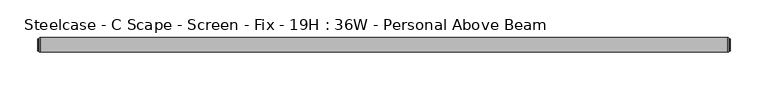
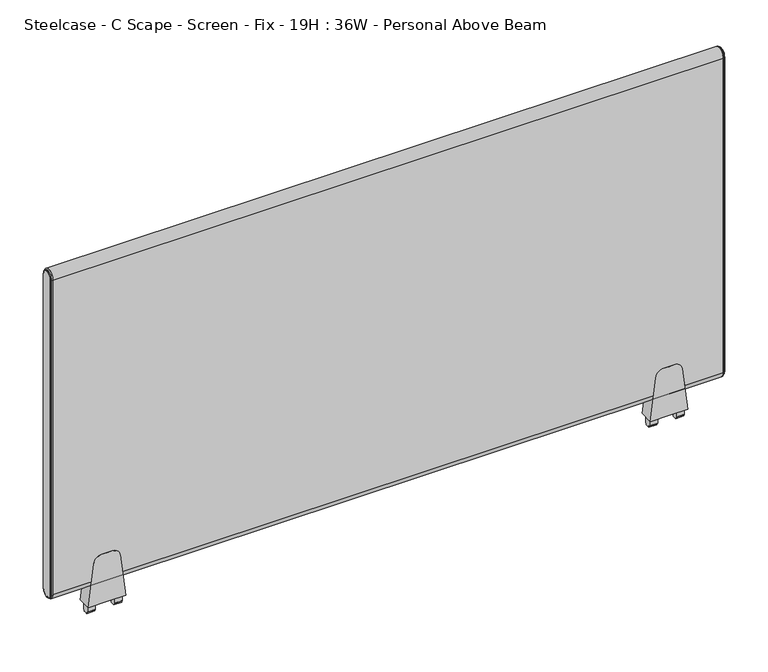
"""IFC4 building model written with IfcOpenShell, lengths in millimetres: furniture geometry, Steelcase - C Scape - Screen - Fix - 19H : 36W - Personal Above Beam."""

from ifc_helpers import new_model, si_unit, point, frame, frame_2d, origin, place, context, project, spatial, polyline, circle_curve, ellipse_curve, trimmed, segment, composite_curve, outline, extrude, source, transform, mapped, element, save
from ifc_brep_helpers import plane_surface, cylinder_surface, revolved_surface, advanced_brep


def steelcase_c_scape_screen_fix_19h_36w_personal_above_beam_f9daa185(model_context):
    return source(origin(), model_context, "Body", "SolidModel", [
        extrude(outline(composite_curve([segment(polyline([(609.511112, 101.4730434), (669.8362421, 94.0661495)]), True, "CONTINUOUS"), segment(trimmed(circle_curve(frame_2d((668.5143718, 83.300233)), 10.8467645), [point((669.8362421, 94.0661495))], [point((679.3611362, 83.300233))], False, "CARTESIAN"), True, "CONTINUOUS"), segment(polyline([(679.3611362, 83.300233), (679.3611362, 76.2001674), (679.3611362, 69.1001018)]), True, "CONTINUOUS"), segment(trimmed(circle_curve(frame_2d((668.5143718, 69.1001018)), 10.8467645), [point((679.3611362, 69.1001018))], [point((669.8362421, 58.3341853))], False, "CARTESIAN"), True, "CONTINUOUS"), segment(polyline([(669.8362421, 58.3341853), (609.511112, 50.9272915), (609.511112, 76.2001674), (609.511112, 101.4730434)]), True, "CONTINUOUS")], self_intersect=False)), frame((0.0, -9.525, 0.0), z_axis=(0.0, 1.0, 0.0), x_axis=(0.0, 0.0, 1.0)), (0.0, 0.0, 1.0), 19.05),
        extrude(outline(polyline([(4.5465975, 609.511112), (4.5465975, 599.6051033), (4.0139265, 598.7186748), (2.9972008, 598.7186748), (2.9972008, 596.4834188), (0.0, 596.392), (-2.9972008, 596.4834188), (-2.9972008, 598.7186748), (-4.0139265, 598.7186748), (-4.5465975, 599.6051033), (-4.5465975, 609.511112), (0.0, 609.511112), (4.5465975, 609.511112)])), frame((88.9267162, 0.0, 0.0), z_axis=(1.0, 0.0, 0.0), x_axis=(0.0, 1.0, 0.0)), (0.0, 0.0, 1.0), 10.7813187),
        extrude(outline(polyline([(4.5465975, 609.511112), (4.5465975, 599.6051033), (4.0139265, 598.7186748), (2.9972008, 598.7186748), (2.9972008, 596.4834188), (0.0, 596.392), (-2.9972008, 596.4834188), (-2.9972008, 598.7186748), (-4.0139265, 598.7186748), (-4.5465975, 599.6051033), (-4.5465975, 609.511112), (0.0, 609.511112), (4.5465975, 609.511112)])), frame((52.6923, 0.0, 0.0), z_axis=(1.0, 0.0, 0.0), x_axis=(0.0, 1.0, 0.0)), (0.0, 0.0, 1.0), 10.7813187),
        extrude(outline(composite_curve([segment(polyline([(609.511112, 862.7107132), (669.8362421, 855.3038193)]), True, "CONTINUOUS"), segment(trimmed(circle_curve(frame_2d((668.5143718, 844.5379028)), 10.8467645), [point((669.8362421, 855.3038193))], [point((679.3611362, 844.5379028))], False, "CARTESIAN"), True, "CONTINUOUS"), segment(polyline([(679.3611362, 844.5379028), (679.3611362, 837.4378372), (679.3611362, 830.3377716)]), True, "CONTINUOUS"), segment(trimmed(circle_curve(frame_2d((668.5143718, 830.3377716)), 10.8467645), [point((679.3611362, 830.3377716))], [point((669.8362421, 819.5718551))], False, "CARTESIAN"), True, "CONTINUOUS"), segment(polyline([(669.8362421, 819.5718551), (609.511112, 812.1649612), (609.511112, 837.4378372), (609.511112, 862.7107132)]), True, "CONTINUOUS")], self_intersect=False)), frame((0.0, -9.525, 0.0), z_axis=(0.0, 1.0, 0.0), x_axis=(0.0, 0.0, 1.0)), (0.0, 0.0, 1.0), 19.05),
        extrude(outline(polyline([(4.5465975, 609.511112), (4.5465975, 599.6051033), (4.0139265, 598.7186748), (2.9972008, 598.7186748), (2.9972008, 596.4834188), (0.0, 596.392), (-2.9972008, 596.4834188), (-2.9972008, 598.7186748), (-4.0139265, 598.7186748), (-4.5465975, 599.6051033), (-4.5465975, 609.511112), (0.0, 609.511112), (4.5465975, 609.511112)])), frame((850.164386, 0.0, 0.0), z_axis=(1.0, 0.0, 0.0), x_axis=(0.0, 1.0, 0.0)), (0.0, 0.0, 1.0), 10.7813187),
        extrude(outline(polyline([(4.5465975, 609.511112), (4.5465975, 599.6051033), (4.0139265, 598.7186748), (2.9972008, 598.7186748), (2.9972008, 596.4834188), (0.0, 596.392), (-2.9972008, 596.4834188), (-2.9972008, 598.7186748), (-4.0139265, 598.7186748), (-4.5465975, 599.6051033), (-4.5465975, 609.511112), (0.0, 609.511112), (4.5465975, 609.511112)])), frame((813.9299698, 0.0, 0.0), z_axis=(1.0, 0.0, 0.0), x_axis=(0.0, 1.0, 0.0)), (0.0, 0.0, 1.0), 10.7813187),
        advanced_brep(
        [(910.8486613, -9.525, 1095.375), (910.8486613, 9.525, 1095.375), (910.8486613, 9.525, 644.525), (910.8486613, -9.525, 644.525), (913.6426613, 7.4929583, 1095.375), (913.6426613, -7.4929583, 1095.375), (913.6426613, -7.4929583, 644.525), (913.6426613, 7.4929583, 644.525), (913.1346545, -8.0009651, 1095.375), (913.1346545, 8.0009651, 1095.375), (911.8646613, 8.0009651, 1095.375), (911.8646613, -8.0009651, 1095.375), (911.8646613, -8.8204932, 1095.375), (911.8646613, 8.8204932, 1095.375), (911.8646613, -8.0009651, 644.525), (913.1346545, -8.0009651, 644.525), (911.8646613, -8.8204932, 644.525), (911.8646613, 8.0009651, 644.525), (913.1346545, 8.0009651, 644.525), (911.8646613, 8.8204932, 644.525)],
        [
            (0, 1, circle_curve(frame((910.8486613, 0.0, 1095.375), z_axis=(-1.0, 0.0, 0.0), x_axis=(0.0, 1.0, 0.0)), 9.525)),
            (1, 2),
            (2, 3, circle_curve(frame((910.8486613, 0.0, 644.525), z_axis=(-1.0, 0.0, 0.0), x_axis=(0.0, -1.0, 0.0)), 9.525)),
            (3, 0),
            (4, 5, circle_curve(frame((913.6426613, 0.0, 1095.375), z_axis=(1.0, 0.0, 0.0), x_axis=(0.0, 1.0, 0.0)), 7.4929583)),
            (5, 6),
            (6, 7, circle_curve(frame((913.6426613, 0.0, 644.525), z_axis=(1.0, 0.0, 0.0), x_axis=(0.0, -1.0, 0.0)), 7.4929583)),
            (7, 4),
            (8, 9, circle_curve(frame((913.1346545, 0.0, 1095.375), z_axis=(-1.0, 0.0, 0.0), x_axis=(0.0, 1.0, 0.0)), 8.0009651)),
            (9, 10),
            (10, 11, circle_curve(frame((911.8646613, 0.0, 1095.375), z_axis=(1.0, 0.0, 0.0), x_axis=(0.0, 1.0, 0.0)), 8.0009651)),
            (11, 8),
            (8, 5, circle_curve(frame((913.1346545, -7.4929583, 1095.375), z_axis=(0.0, 0.0, 1.0), x_axis=(0.0, -1.0, 0.0)), 0.5080068)),
            (4, 9, circle_curve(frame((913.1346545, 7.4929583, 1095.375), z_axis=(0.0, 0.0, 1.0), x_axis=(0.0, 1.0, 0.0)), 0.5080068)),
            (12, 13, circle_curve(frame((911.8646613, 0.0, 1095.375), z_axis=(-1.0, 0.0, 0.0), x_axis=(0.0, 1.0, 0.0)), 8.8204932)),
            (13, 1, circle_curve(frame((910.7806211, 8.3420139, 1095.375), z_axis=(0.0, 0.0, 1.0), x_axis=(0.0, 1.0, 0.0)), 1.1849411)),
            (0, 12, circle_curve(frame((910.7806211, -8.3420139, 1095.375), z_axis=(0.0, 0.0, 1.0), x_axis=(0.0, -1.0, 0.0)), 1.1849411)),
            (11, 14),
            (14, 15),
            (15, 8),
            (15, 6, circle_curve(frame((913.1346545, -7.4929583, 644.525), z_axis=(0.0, 0.0, 1.0), x_axis=(0.0, -1.0, 0.0)), 0.5080068)),
            (3, 16, circle_curve(frame((910.7806211, -8.3420139, 644.525), z_axis=(0.0, 0.0, 1.0), x_axis=(0.0, -1.0, 0.0)), 1.1849411)),
            (16, 12),
            (14, 17, circle_curve(frame((911.8646613, 0.0, 644.525), z_axis=(1.0, 0.0, 0.0), x_axis=(0.0, -1.0, 0.0)), 8.0009651)),
            (17, 18),
            (18, 15, circle_curve(frame((913.1346545, 0.0, 644.525), z_axis=(-1.0, 0.0, 0.0), x_axis=(0.0, -1.0, 0.0)), 8.0009651)),
            (18, 7, circle_curve(frame((913.1346545, 7.4929583, 644.525), z_axis=(0.0, 0.0, -1.0), x_axis=(0.0, 1.0, 0.0)), 0.5080068)),
            (2, 19, circle_curve(frame((910.7806211, 8.3420139, 644.525), z_axis=(0.0, 0.0, -1.0), x_axis=(0.0, 1.0, 0.0)), 1.1849411)),
            (19, 16, circle_curve(frame((911.8646613, 0.0, 644.525), z_axis=(-1.0, 0.0, 0.0), x_axis=(0.0, -1.0, 0.0)), 8.8204932)),
            (9, 18),
            (17, 10),
            (13, 19),
        ],
        [
            plane_surface(frame((910.8486613, -6.3509705, 1095.375), z_axis=(-1.0, 0.0, 0.0), x_axis=(0.0, 0.0, 1.0))),
            plane_surface(frame((913.6426613, -6.3509705, 1095.375), z_axis=(1.0, 0.0, 0.0), x_axis=(0.0, 0.0, -1.0))),
            cylinder_surface(frame((910.8486613, 0.0, 1095.375), z_axis=(1.0, 0.0, 0.0), x_axis=(0.0, 1.0, 0.0)), 8.0009651),
            revolved_surface(trimmed(ellipse_curve(frame((913.1346545, 7.4929583, 1095.375), z_axis=(0.0, 0.0, -1.0), x_axis=(0.0, 1.0, 0.0)), 0.5080068, 0.5080068), [point((913.1346545, 8.0009651, 1095.375))], [point((913.6426613, 7.4929583, 1095.375))], True, "CARTESIAN"), (910.8486613, 0.0, 1095.375), (1.0, 0.0, 0.0)),
            revolved_surface(trimmed(ellipse_curve(frame((910.7806211, 8.3420139, 1095.375), z_axis=(0.0, 0.0, -1.0), x_axis=(0.0, 1.0, 0.0)), 1.1849411, 1.1849411), [point((910.8486613, 9.525, 1095.375))], [point((911.8646613, 8.8204932, 1095.375))], True, "CARTESIAN"), (910.8486613, 0.0, 1095.375), (1.0, 0.0, 0.0)),
            plane_surface(frame((911.8646613, -8.0009651, 1095.375), z_axis=(0.0, -1.0, 0.0), x_axis=(0.0, 0.0, -1.0))),
            cylinder_surface(frame((913.1346545, -7.4929583, 1095.375), z_axis=(0.0, 0.0, 1.0), x_axis=(0.0, -1.0, 0.0)), 0.5080068),
            cylinder_surface(frame((910.7806211, -8.3420139, 1095.375), z_axis=(0.0, 0.0, 1.0), x_axis=(0.0, -1.0, 0.0)), 1.1849411),
            cylinder_surface(frame((910.8486613, 0.0, 644.525), z_axis=(1.0, 0.0, 0.0), x_axis=(0.0, -1.0, 0.0)), 8.0009651),
            revolved_surface(trimmed(ellipse_curve(frame((913.1346545, -7.4929583, 644.525), z_axis=(0.0, 0.0, 1.0), x_axis=(0.0, -1.0, 0.0)), 0.5080068, 0.5080068), [point((913.1346545, -8.0009651, 644.525))], [point((913.6426613, -7.4929583, 644.525))], True, "CARTESIAN"), (910.8486613, 0.0, 644.525), (1.0, 0.0, 0.0)),
            revolved_surface(trimmed(ellipse_curve(frame((910.7806211, -8.3420139, 644.525), z_axis=(0.0, 0.0, 1.0), x_axis=(0.0, -1.0, 0.0)), 1.1849411, 1.1849411), [point((910.8486613, -9.525, 644.525))], [point((911.8646613, -8.8204932, 644.525))], True, "CARTESIAN"), (910.8486613, 0.0, 644.525), (1.0, 0.0, 0.0)),
            plane_surface(frame((911.8646613, 8.0009651, 644.525), z_axis=(0.0, 1.0, 0.0), x_axis=(0.0, 0.0, 1.0))),
            cylinder_surface(frame((913.1346545, 7.4929583, 644.525), z_axis=(0.0, 0.0, -1.0), x_axis=(0.0, 1.0, 0.0)), 0.5080068),
            cylinder_surface(frame((910.7806211, 8.3420139, 644.525), z_axis=(0.0, 0.0, -1.0), x_axis=(0.0, 1.0, 0.0)), 1.1849411),
            plane_surface(frame((911.8646613, 8.8204932, 644.525), z_axis=(1.0, 0.0, 0.0), x_axis=(0.0, 0.0, 1.0))),
        ],
        [
            (0, [[1, 2, 3, 4]]),
            (1, [[5, 6, 7, 8]]),
            (2, [[9, 10, 11, 12]]),
            (3, [[-9, 13, -5, 14]]),
            (4, [[15, 16, -1, 17]]),
            (5, [[-12, 18, 19, 20]]),
            (6, [[-13, -20, 21, -6]]),
            (7, [[-17, -4, 22, 23]]),
            (8, [[-19, 24, 25, 26]]),
            (9, [[-21, -26, 27, -7]]),
            (10, [[-22, -3, 28, 29]]),
            (11, [[-10, 30, -25, 31]]),
            (12, [[-14, -8, -27, -30]]),
            (13, [[-16, 32, -28, -2]]),
            (14, [[-15, -23, -29, -32], [-11, -31, -24, -18]]),
        ],
    ),
        advanced_brep(
        [(2.7940155, 9.525, 1095.375), (2.7940155, -9.525, 1095.375), (2.7940155, -9.525, 644.525), (2.7940155, 9.525, 644.525), (0.0, -7.4929583, 1095.375), (0.0, 7.4929583, 1095.375), (0.0, 7.4929583, 644.525), (0.0, -7.4929583, 644.525), (1.778, 8.8204932, 1095.375), (1.778, -8.8204932, 1095.375), (0.5080068, -8.0009651, 1095.375), (0.5080068, 8.0009651, 1095.375), (1.778, -8.0009651, 1095.375), (1.778, 8.0009651, 1095.375), (1.778, -8.8204932, 644.525), (0.5080068, -8.0009651, 644.525), (1.778, -8.0009651, 644.525), (1.778, 8.8204932, 644.525), (0.5080068, 8.0009651, 644.525), (1.778, 8.0009651, 644.525)],
        [
            (0, 1, circle_curve(frame((2.7940155, 0.0, 1095.375), z_axis=(1.0, 0.0, 0.0), x_axis=(0.0, 1.0, 0.0)), 9.525)),
            (1, 2),
            (2, 3, circle_curve(frame((2.7940155, 0.0, 644.525), z_axis=(1.0, 0.0, 0.0), x_axis=(0.0, -1.0, 0.0)), 9.525)),
            (3, 0),
            (4, 5, circle_curve(frame((0.0, 0.0, 1095.375), z_axis=(-1.0, 0.0, 0.0), x_axis=(0.0, 1.0, 0.0)), 7.4929583)),
            (5, 6),
            (6, 7, circle_curve(frame((0.0, 0.0, 644.525), z_axis=(-1.0, 0.0, 0.0), x_axis=(0.0, -1.0, 0.0)), 7.4929583)),
            (7, 4),
            (0, 8, circle_curve(frame((2.8620402, 8.3420139, 1095.375), z_axis=(0.0, 0.0, 1.0), x_axis=(0.0, -1.0, 0.0)), 1.1849411)),
            (8, 9, circle_curve(frame((1.778, 0.0, 1095.375), z_axis=(1.0, 0.0, 0.0), x_axis=(0.0, 1.0, 0.0)), 8.8204932)),
            (9, 1, circle_curve(frame((2.8620402, -8.3420139, 1095.375), z_axis=(0.0, 0.0, 1.0), x_axis=(0.0, 1.0, 0.0)), 1.1849411)),
            (10, 11, circle_curve(frame((0.5080068, 0.0, 1095.375), z_axis=(-1.0, 0.0, 0.0), x_axis=(0.0, 1.0, 0.0)), 8.0009651)),
            (11, 5, circle_curve(frame((0.5080068, 7.4929583, 1095.375), z_axis=(0.0, 0.0, 1.0), x_axis=(0.0, -1.0, 0.0)), 0.5080068)),
            (4, 10, circle_curve(frame((0.5080068, -7.4929583, 1095.375), z_axis=(0.0, 0.0, 1.0), x_axis=(0.0, 1.0, 0.0)), 0.5080068)),
            (10, 12),
            (12, 13, circle_curve(frame((1.778, 0.0, 1095.375), z_axis=(-1.0, 0.0, 0.0), x_axis=(0.0, 1.0, 0.0)), 8.0009651)),
            (13, 11),
            (9, 14),
            (14, 2, circle_curve(frame((2.8620402, -8.3420139, 644.525), z_axis=(0.0, 0.0, 1.0), x_axis=(0.0, 1.0, 0.0)), 1.1849411)),
            (7, 15, circle_curve(frame((0.5080068, -7.4929583, 644.525), z_axis=(0.0, 0.0, 1.0), x_axis=(0.0, 1.0, 0.0)), 0.5080068)),
            (15, 10),
            (15, 16),
            (16, 12),
            (14, 17, circle_curve(frame((1.778, 0.0, 644.525), z_axis=(1.0, 0.0, 0.0), x_axis=(0.0, -1.0, 0.0)), 8.8204932)),
            (17, 3, circle_curve(frame((2.8620402, 8.3420139, 644.525), z_axis=(0.0, 0.0, -1.0), x_axis=(0.0, -1.0, 0.0)), 1.1849411)),
            (6, 18, circle_curve(frame((0.5080068, 7.4929583, 644.525), z_axis=(0.0, 0.0, -1.0), x_axis=(0.0, -1.0, 0.0)), 0.5080068)),
            (18, 15, circle_curve(frame((0.5080068, 0.0, 644.525), z_axis=(-1.0, 0.0, 0.0), x_axis=(0.0, -1.0, 0.0)), 8.0009651)),
            (18, 19),
            (19, 16, circle_curve(frame((1.778, 0.0, 644.525), z_axis=(-1.0, 0.0, 0.0), x_axis=(0.0, -1.0, 0.0)), 8.0009651)),
            (8, 17),
            (19, 13),
            (11, 18),
        ],
        [
            plane_surface(frame((2.7940155, -6.3509705, 1095.375), z_axis=(1.0, 0.0, 0.0), x_axis=(0.0, 0.0, -1.0))),
            plane_surface(frame((0.0, -6.3509705, 1095.375), z_axis=(-1.0, 0.0, 0.0), x_axis=(0.0, 0.0, 1.0))),
            revolved_surface(trimmed(ellipse_curve(frame((2.8620402, 8.3420139, 1095.375), z_axis=(0.0, 0.0, -1.0), x_axis=(0.0, -1.0, 0.0)), 1.1849411, 1.1849411), [point((1.778, 8.8204932, 1095.375))], [point((2.794, 9.525, 1095.375))], True, "CARTESIAN"), (2.794, 0.0, 1095.375), (1.0, 0.0, 0.0)),
            revolved_surface(trimmed(ellipse_curve(frame((0.5080068, 7.4929583, 1095.375), z_axis=(0.0, 0.0, -1.0), x_axis=(0.0, -1.0, 0.0)), 0.5080068, 0.5080068), [point((0.0, 7.4929583, 1095.375))], [point((0.5080068, 8.0009651, 1095.375))], True, "CARTESIAN"), (2.794, 0.0, 1095.375), (1.0, 0.0, 0.0)),
            cylinder_surface(frame((2.794, 0.0, 1095.375), z_axis=(1.0, 0.0, 0.0), x_axis=(0.0, 1.0, 0.0)), 8.0009651),
            cylinder_surface(frame((2.8620402, -8.3420139, 1095.375), z_axis=(0.0, 0.0, 1.0), x_axis=(0.0, 1.0, 0.0)), 1.1849411),
            cylinder_surface(frame((0.5080068, -7.4929583, 1095.375), z_axis=(0.0, 0.0, 1.0), x_axis=(0.0, 1.0, 0.0)), 0.5080068),
            plane_surface(frame((0.5080068, -8.0009651, 1095.375), z_axis=(0.0, -1.0, 0.0), x_axis=(0.0, 0.0, -1.0))),
            revolved_surface(trimmed(ellipse_curve(frame((2.8620402, -8.3420139, 644.525), z_axis=(0.0, 0.0, 1.0), x_axis=(0.0, 1.0, 0.0)), 1.1849411, 1.1849411), [point((1.778, -8.8204932, 644.525))], [point((2.794, -9.525, 644.525))], True, "CARTESIAN"), (2.794, 0.0, 644.525), (1.0, 0.0, 0.0)),
            revolved_surface(trimmed(ellipse_curve(frame((0.5080068, -7.4929583, 644.525), z_axis=(0.0, 0.0, 1.0), x_axis=(0.0, 1.0, 0.0)), 0.5080068, 0.5080068), [point((0.0, -7.4929583, 644.525))], [point((0.5080068, -8.0009651, 644.525))], True, "CARTESIAN"), (2.794, 0.0, 644.525), (1.0, 0.0, 0.0)),
            cylinder_surface(frame((2.794, 0.0, 644.525), z_axis=(1.0, 0.0, 0.0), x_axis=(0.0, -1.0, 0.0)), 8.0009651),
            plane_surface(frame((1.778, 8.0009651, 644.525), z_axis=(-1.0, 0.0, 0.0), x_axis=(0.0, 0.0, 1.0))),
            cylinder_surface(frame((2.8620402, 8.3420139, 644.525), z_axis=(0.0, 0.0, -1.0), x_axis=(0.0, -1.0, 0.0)), 1.1849411),
            cylinder_surface(frame((0.5080068, 7.4929583, 644.525), z_axis=(0.0, 0.0, -1.0), x_axis=(0.0, -1.0, 0.0)), 0.5080068),
            plane_surface(frame((0.5080068, 8.0009651, 644.525), z_axis=(0.0, 1.0, 0.0), x_axis=(0.0, 0.0, 1.0))),
        ],
        [
            (0, [[1, 2, 3, 4]]),
            (1, [[5, 6, 7, 8]]),
            (2, [[-1, 9, 10, 11]]),
            (3, [[12, 13, -5, 14]]),
            (4, [[-12, 15, 16, 17]]),
            (5, [[-11, 18, 19, -2]]),
            (6, [[-14, -8, 20, 21]]),
            (7, [[-15, -21, 22, 23]]),
            (8, [[-19, 24, 25, -3]]),
            (9, [[-20, -7, 26, 27]]),
            (10, [[-22, -27, 28, 29]]),
            (11, [[-10, 30, -24, -18], [-16, -23, -29, 31]]),
            (12, [[-9, -4, -25, -30]]),
            (13, [[-13, 32, -26, -6]]),
            (14, [[-17, -31, -28, -32]]),
        ],
    ),
        extrude(outline(composite_curve([segment(trimmed(circle_curve(frame_2d((0.0, 1095.375)), 9.525), [point((-9.525, 1095.375))], [point((9.525, 1095.375))], False, "CARTESIAN"), True, "CONTINUOUS"), segment(polyline([(9.525, 1095.375), (9.525, 644.525)]), True, "CONTINUOUS"), segment(trimmed(circle_curve(frame_2d((0.0, 644.525)), 9.525), [point((9.525, 644.525))], [point((-9.525, 644.525))], False, "CARTESIAN"), True, "CONTINUOUS"), segment(polyline([(-9.525, 644.525), (-9.525, 1095.375)]), True, "CONTINUOUS")], self_intersect=False)), frame((2.794, 0.0, 0.0), z_axis=(1.0, 0.0, 0.0), x_axis=(0.0, 1.0, 0.0)), (0.0, 0.0, 1.0), 908.0546613),
    ])


if __name__ == "__main__":
    model = new_model("IFC4")
    model_context = context("Model", 3, world=origin())
    ifc_project = project(units=[si_unit("LENGTHUNIT", "METRE", prefix="MILLI")], contexts=[model_context])
    site = spatial("IfcSite", under=ifc_project)
    building = spatial("IfcBuilding", under=site)
    placement = place(None, origin())
    steelcase_c_scape_screen_fix_19h_36w_personal_above_beam_shape = steelcase_c_scape_screen_fix_19h_36w_personal_above_beam_f9daa185(model_context)
    element("IfcFurniture", 1, ObjectType="Steelcase - C Scape - Screen - Fix - 19H : 36W - Personal Above Beam", at=placement, inside=building, context=model_context, shape_type="MappedRepresentation", body=[
        mapped(steelcase_c_scape_screen_fix_19h_36w_personal_above_beam_shape, transform((0.0, 0.0, 0.0), x_axis=(1.0, 0.0, 0.0), y_axis=(0.0, 1.0, 0.0), z_axis=(0.0, 0.0, 1.0))),
    ])
    save(model, "model.ifc")
